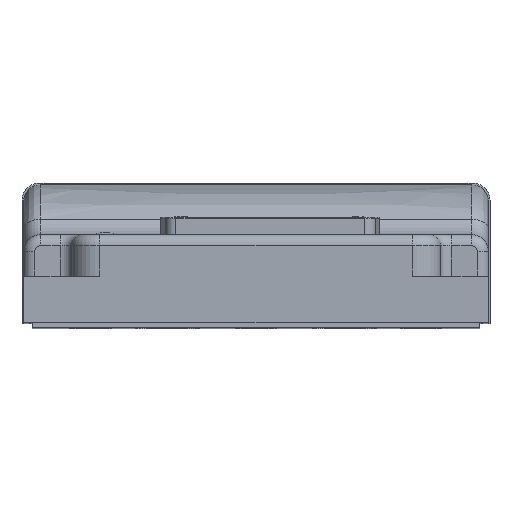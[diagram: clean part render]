
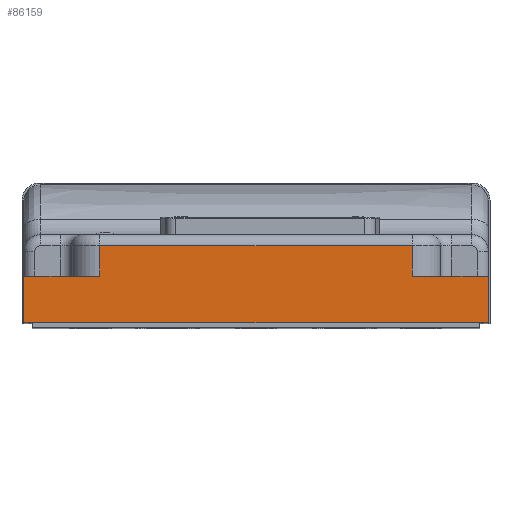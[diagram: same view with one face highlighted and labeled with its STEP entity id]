
A CAD part, top view. The second image highlights one B-rep face of the part: STEP entity #86159.
In plain terms, the highlighted planar face has unit normal (0, 0, 1) as drawn and (0, -1, 0) by its records, which use the part's own axes.
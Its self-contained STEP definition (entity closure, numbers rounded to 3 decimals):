
#5723 = LINE ( 'NONE', #60356, #143434 ) ;
#6233 = VECTOR ( 'NONE', #13329, 1000. ) ;
#13329 = DIRECTION ( 'NONE',  ( 0., 0., -1. ) ) ;
#13483 = ORIENTED_EDGE ( 'NONE', *, *, #90989, .T. ) ;
#14966 = CARTESIAN_POINT ( 'NONE',  ( 41.5, -61.5, 24.7 ) ) ;
#18244 = VERTEX_POINT ( 'NONE', #47828 ) ;
#18665 = ORIENTED_EDGE ( 'NONE', *, *, #120516, .T. ) ;
#22390 = VERTEX_POINT ( 'NONE', #113286 ) ;
#25524 = CARTESIAN_POINT ( 'NONE',  ( -41.5, -61.5, 8.3 ) ) ;
#26395 = CARTESIAN_POINT ( 'NONE',  ( -41.5, -61.5, 24.7 ) ) ;
#27374 = VECTOR ( 'NONE', #101071, 1000. ) ;
#31395 = CARTESIAN_POINT ( 'NONE',  ( 41.5, -61.5, 0. ) ) ;
#35384 = LINE ( 'NONE', #162962, #131689 ) ;
#37623 = DIRECTION ( 'NONE',  ( 1., 0., 0. ) ) ;
#47152 = CARTESIAN_POINT ( 'NONE',  ( -27.94, -61.5, 8.3 ) ) ;
#47402 = DIRECTION ( 'NONE',  ( 0., 1., 0. ) ) ;
#47828 = CARTESIAN_POINT ( 'NONE',  ( -41.5, -61.5, 8.3 ) ) ;
#50772 = VERTEX_POINT ( 'NONE', #150334 ) ;
#55503 = LINE ( 'NONE', #14966, #6233 ) ;
#60356 = CARTESIAN_POINT ( 'NONE',  ( -27.94, -61.5, 24.7 ) ) ;
#60840 = LINE ( 'NONE', #26395, #27374 ) ;
#66605 = CARTESIAN_POINT ( 'NONE',  ( 41.5, -61.5, 8.3 ) ) ;
#67167 = EDGE_CURVE ( 'NONE', #157620, #145917, #85654, .T. ) ;
#69627 = ORIENTED_EDGE ( 'NONE', *, *, #100504, .T. ) ;
#72471 = ORIENTED_EDGE ( 'NONE', *, *, #122497, .F. ) ;
#72953 = ORIENTED_EDGE ( 'NONE', *, *, #87721, .T. ) ;
#75777 = LINE ( 'NONE', #66605, #105167 ) ;
#78651 = DIRECTION ( 'NONE',  ( 1., 0., 0. ) ) ;
#82412 = LINE ( 'NONE', #25524, #155161 ) ;
#82705 = VERTEX_POINT ( 'NONE', #47152 ) ;
#83428 = VERTEX_POINT ( 'NONE', #31395 ) ;
#85654 = LINE ( 'NONE', #89482, #156518 ) ;
#86159 = ADVANCED_FACE ( 'NONE', ( #159859 ), #122601, .F. ) ;
#87721 = EDGE_CURVE ( 'NONE', #18244, #50772, #60840, .T. ) ;
#89482 = CARTESIAN_POINT ( 'NONE',  ( -41.5, -61.5, 13.7 ) ) ;
#90989 = EDGE_CURVE ( 'NONE', #22390, #157620, #113484, .T. ) ;
#93810 = EDGE_CURVE ( 'NONE', #130611, #83428, #55503, .T. ) ;
#95657 = DIRECTION ( 'NONE',  ( 0., 0., 1. ) ) ;
#97001 = AXIS2_PLACEMENT_3D ( 'NONE', #145758, #47402, #95657 ) ;
#100504 = EDGE_CURVE ( 'NONE', #145917, #82705, #5723, .T. ) ;
#101071 = DIRECTION ( 'NONE',  ( 0., 0., -1. ) ) ;
#105167 = VECTOR ( 'NONE', #78651, 1000. ) ;
#107451 = VECTOR ( 'NONE', #111484, 1000. ) ;
#109243 = DIRECTION ( 'NONE',  ( 0., 0., -1. ) ) ;
#111345 = ORIENTED_EDGE ( 'NONE', *, *, #93810, .F. ) ;
#111484 = DIRECTION ( 'NONE',  ( 0., 0., 1. ) ) ;
#113286 = CARTESIAN_POINT ( 'NONE',  ( 27.94, -61.5, 8.3 ) ) ;
#113484 = LINE ( 'NONE', #123604, #107451 ) ;
#114769 = ORIENTED_EDGE ( 'NONE', *, *, #67167, .T. ) ;
#116676 = EDGE_CURVE ( 'NONE', #18244, #82705, #82412, .T. ) ;
#117632 = CARTESIAN_POINT ( 'NONE',  ( 27.94, -61.5, 13.7 ) ) ;
#120343 = ORIENTED_EDGE ( 'NONE', *, *, #116676, .F. ) ;
#120516 = EDGE_CURVE ( 'NONE', #50772, #83428, #35384, .T. ) ;
#122497 = EDGE_CURVE ( 'NONE', #22390, #130611, #75777, .T. ) ;
#122601 = PLANE ( 'NONE',  #97001 ) ;
#123604 = CARTESIAN_POINT ( 'NONE',  ( 27.94, -61.5, 24.7 ) ) ;
#130611 = VERTEX_POINT ( 'NONE', #155024 ) ;
#131689 = VECTOR ( 'NONE', #37623, 1000. ) ;
#136500 = CARTESIAN_POINT ( 'NONE',  ( -27.94, -61.5, 13.7 ) ) ;
#139554 = DIRECTION ( 'NONE',  ( -1., 0., 0. ) ) ;
#142253 = EDGE_LOOP ( 'NONE', ( #13483, #114769, #69627, #120343, #72953, #18665, #111345, #72471 ) ) ;
#143434 = VECTOR ( 'NONE', #109243, 1000. ) ;
#145758 = CARTESIAN_POINT ( 'NONE',  ( -41.5, -61.5, 24.7 ) ) ;
#145917 = VERTEX_POINT ( 'NONE', #136500 ) ;
#150334 = CARTESIAN_POINT ( 'NONE',  ( -41.5, -61.5, 0. ) ) ;
#151414 = DIRECTION ( 'NONE',  ( 1., 0., 0. ) ) ;
#155024 = CARTESIAN_POINT ( 'NONE',  ( 41.5, -61.5, 8.3 ) ) ;
#155161 = VECTOR ( 'NONE', #151414, 1000. ) ;
#156518 = VECTOR ( 'NONE', #139554, 1000. ) ;
#157620 = VERTEX_POINT ( 'NONE', #117632 ) ;
#159859 = FACE_OUTER_BOUND ( 'NONE', #142253, .T. ) ;
#162962 = CARTESIAN_POINT ( 'NONE',  ( -41.5, -61.5, 0. ) ) ;
